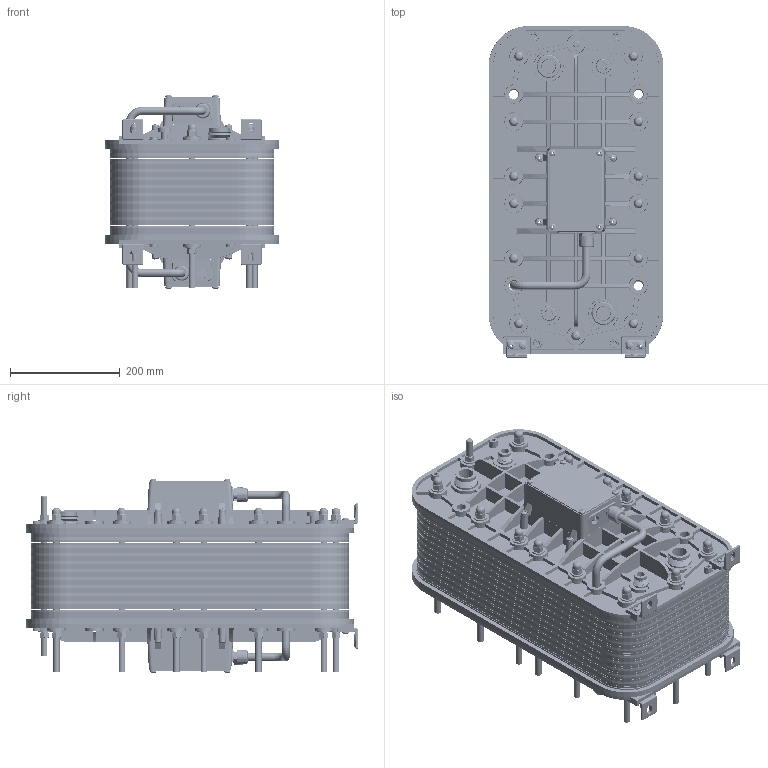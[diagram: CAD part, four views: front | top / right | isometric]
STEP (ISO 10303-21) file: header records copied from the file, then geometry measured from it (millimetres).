
FILE_DESCRIPTION (( 'STEP AP214' ), '1' );
FILE_NAME ('IP-LXM10X-3.STEP', '2010-09-28T18:02:15', ( 'Siemens Water Technologies' ), ( 'Siemens Water Technologies' ), 'SwSTEP 2.0', 'SolidWorks 2010', '' );
FILE_SCHEMA (( 'AUTOMOTIVE_DESIGN' ));
Length unit declared in the file: inch
Products named in the file (1): IP-LXM10X-3
Bounding box: 318.42 x 605.45 x 354.21 mm (x, y, z)
Surface area: 4783194.1 mm2 (no closed solid volume)
Topology: 0 solids, 178 shells, 2746 faces, 10448 edges, 7692 vertices
Faces by surface type: plane 1351, cone 690, cylinder 455, torus 157, sphere 48, bspline 45
Entity records: 153699 total; most frequent: CARTESIAN_POINT 28917, DIRECTION 19514, ORIENTED_EDGE 16296, EDGE_CURVE 10448, VERTEX_POINT 7692, AXIS2_PLACEMENT_3D 7649, CIRCLE 4947, VECTOR 4216
